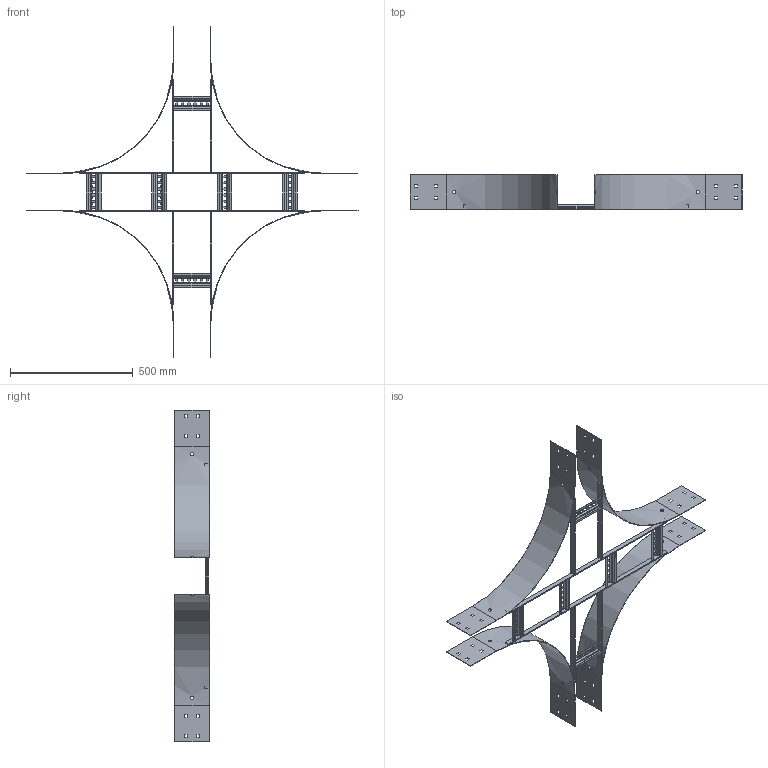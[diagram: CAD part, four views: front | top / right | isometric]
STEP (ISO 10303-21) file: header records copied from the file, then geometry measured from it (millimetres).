
FILE_DESCRIPTION (( 'STEP AP203' ), '1' );
FILE_NAME ('N20C C 1504.STEP', '2024-08-29T00:01:57', ( '' ), ( '' ), 'SwSTEP 2.0', 'SolidWorks 2023', '' );
FILE_SCHEMA (( 'CONFIG_CONTROL_DESIGN' ));
Length unit declared in the file: millimetre
Products named in the file (5): Ladder Rung_Ladder Rung -  150mm; Ladder Tee 20x5 Flat Bar_378; N20C C 1504; N20C RADIUS PLATE_N1-450 IR; Ladder Tee 20x5 Flat Bar_916
Assembly tree (16 placements, depth 2):
  N20C C 1504
    Ladder Rung_Ladder Rung -  150mm  x6
    Ladder Tee 20x5 Flat Bar_916  x2
    N20C RADIUS PLATE_N1-450 IR  x4
    Ladder Tee 20x5 Flat Bar_378  x4
Bounding box: 1350 x 140 x 1350 mm (x, y, z)
Volume: 1544721.2 mm3; surface area: 1432239.7 mm2
Topology: 16 solids, 16 shells, 632 faces, 1576 edges, 976 vertices
Faces by surface type: plane 560, cylinder 72
Entity records: 4995 total; most frequent: CARTESIAN_POINT 1007, ORIENTED_EDGE 640, DIRECTION 626, EDGE_CURVE 320, VECTOR 292, LINE 292, VERTEX_POINT 200, AXIS2_PLACEMENT_3D 167
